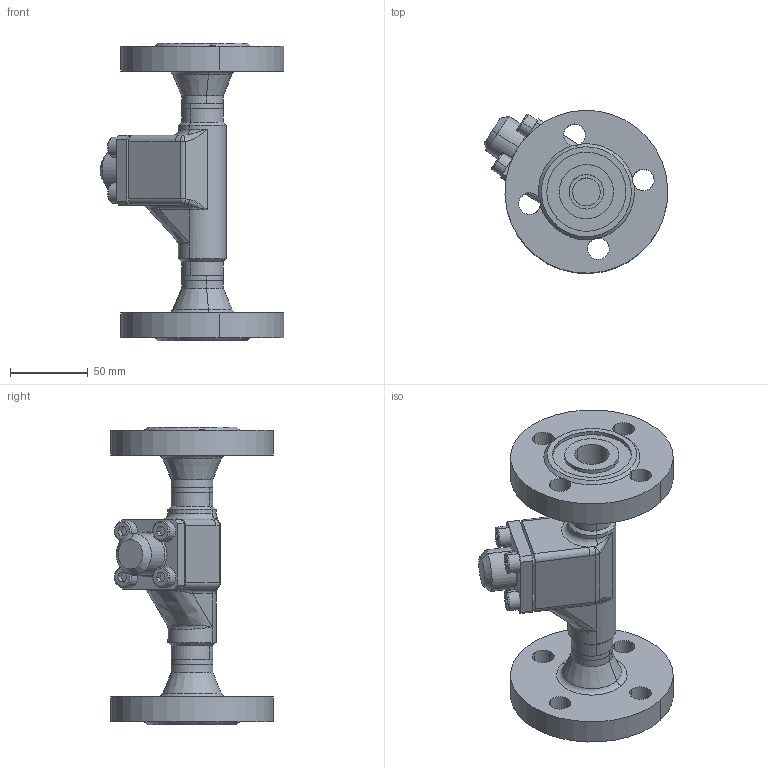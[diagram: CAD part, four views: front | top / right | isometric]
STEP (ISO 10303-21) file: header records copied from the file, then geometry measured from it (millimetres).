
FILE_DESCRIPTION (( 'STEP AP214' ), '1' );
FILE_NAME ('RV98320-DN020_DIN-FL-N_PS40.STEP', '2006-05-02T09:29:22', ( 'Herr Grams' ), ( 'AWP GmbH' ), 'SwSTEP 2.0', 'SolidWorks 2002296', '' );
FILE_SCHEMA (( 'AUTOMOTIVE_DESIGN' ));
Length unit declared in the file: millimetre
Products named in the file (9): RV98320-DN020_DIN-FL-N_PS40; Geh-kpl96320E11-DN20_PS40_DIN-FL_Standard; bead963-DN020-2_Standard; bead963-DN020-1_Standard; Flansch-DIN2635-Nut_PS40_DIN-Flansch-DN020_PS40-Nut; Gehäuse96300E11-DN20_PS40_R1_Standard; RV98300E11_Deck+Schr-DN20_Standard; Deckel98300E11-DN20_PS40_Standard; Zylinderschraube-DIN912_M 8x 20
Assembly tree (12 placements, depth 3):
  RV98320-DN020_DIN-FL-N_PS40
    Geh-kpl96320E11-DN20_PS40_DIN-FL_Standard
      Gehäuse96300E11-DN20_PS40_R1_Standard
      Flansch-DIN2635-Nut_PS40_DIN-Flansch-DN020_PS40-Nut  x2
      bead963-DN020-2_Standard
      bead963-DN020-1_Standard
    RV98300E11_Deck+Schr-DN20_Standard
      Zylinderschraube-DIN912_M 8x 20  x4
      Deckel98300E11-DN20_PS40_Standard
Bounding box: 118.33 x 104.95 x 192 mm (x, y, z)
Volume: 406205.8 mm3; surface area: 99403.7 mm2
Topology: 10 solids, 10 shells, 280 faces, 646 edges, 392 vertices
Faces by surface type: cylinder 111, plane 83, cone 40, bspline 21, torus 19, sphere 6
Entity records: 18880 total; most frequent: CARTESIAN_POINT 13872, DIRECTION 937, ORIENTED_EDGE 888, EDGE_CURVE 444, AXIS2_PLACEMENT_3D 390, VERTEX_POINT 268, EDGE_LOOP 226, CIRCLE 200
